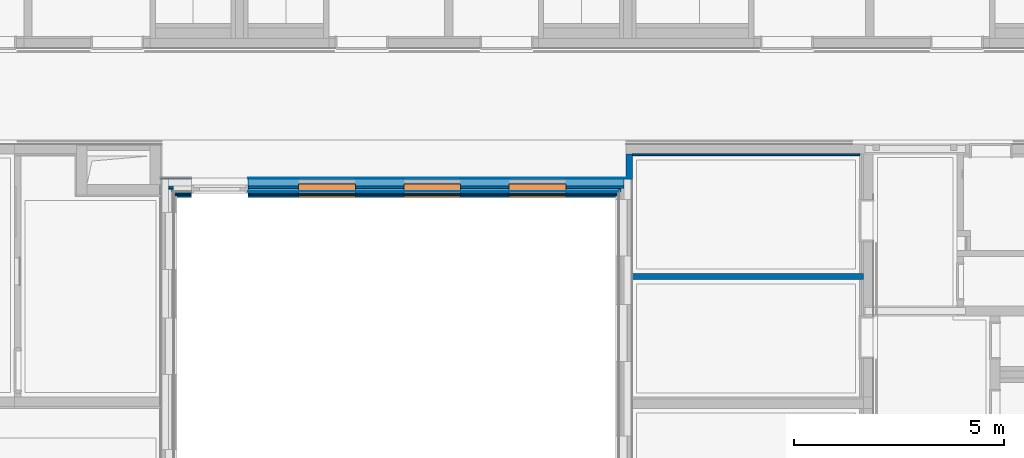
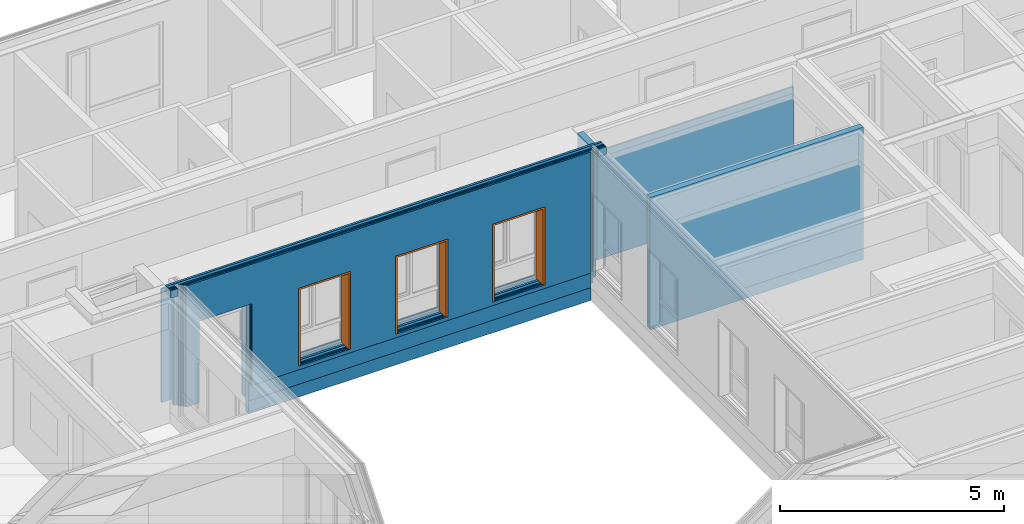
# One storey, part 52 of 207: 14 walls, 3 proxies, 28 openings.
"""IFC4 building model written with IfcOpenShell, lengths in metres."""

import ifcopenshell
import ifcopenshell.guid

model = None  # the IFC model being written
_history = None  # IfcOwnerHistory: only IFC2X3 demands one
_inside = {}  # id of a spatial element -> (the spatial element, [elements in it])
_under = {}  # id of a project, library or spatial element -> (it, [spatial elements below it])
_declared = {}  # id of a project -> (the project, [libraries it declares])
_typed = {}  # id of a type object -> (the type object, [elements of that type])
_made_of = {}  # id of a material, layer set ... -> (it, [elements and type objects made of it])


def new_model(schema):
    """Start an empty IFC model of exactly this schema.

    Asked for "IFC4X3", IfcOpenShell would pick the latest addendum, in which some entities
    have other attributes; the version numbers below select the first issue.
    IFC2X3 requires an IfcOwnerHistory on every rooted entity: one is made here for all.
    """
    global model, _history
    if schema == "IFC4X3":
        model = ifcopenshell.file(schema_version=(4, 3, 0, 0))
    else:
        model = ifcopenshell.file(schema=schema)
    _inside.clear()
    _under.clear()
    _declared.clear()
    _typed.clear()
    _made_of.clear()
    _history = None
    if model.schema == "IFC2X3":
        org = make("IfcOrganization", Name="unknown")
        user = make(
            "IfcPersonAndOrganization",
            ThePerson=make("IfcPerson", FamilyName="unknown"),
            TheOrganization=org,
        )
        app = make(
            "IfcApplication",
            ApplicationDeveloper=org,
            Version="unknown",
            ApplicationFullName="unknown",
            ApplicationIdentifier="unknown",
        )
        _history = make(
            "IfcOwnerHistory",
            OwningUser=user,
            OwningApplication=app,
            ChangeAction="ADDED",
            CreationDate=0,
        )
    return model


def make(cls, **values):
    """One entity of the class cls with the attributes given. An attribute that is None is left unset."""
    return model.create_entity(
        cls, **{name: value for name, value in values.items() if value is not None}
    )


def entity(cls, *values):
    """Any entity or typed value of the class cls, its attributes in the order of the schema. None: left unset."""
    e = model.create_entity(cls)
    for i, value in enumerate(values):
        if value is not None:
            e[i] = value
    return e


def rooted(cls, **values):
    """An entity with a GlobalId (a new one), such as an element, a storey or a relation."""
    return make(cls, GlobalId=ifcopenshell.guid.new(), OwnerHistory=_history, **values)


def si_unit(unit_type, name, prefix=None):
    """IfcSIUnit, for example si_unit("LENGTHUNIT", "METRE", prefix="MILLI")."""
    return make("IfcSIUnit", UnitType=unit_type, Prefix=prefix, Name=name)


def converted_unit(unit_type, name, factor, base, dimensions=None, offset=None):
    """IfcConversionBasedUnit, such as the inch: factor (a typed value) times the base unit."""
    return make(
        "IfcConversionBasedUnit"
        if offset is None
        else "IfcConversionBasedUnitWithOffset",
        ConversionOffset=offset,
        Dimensions=None
        if dimensions is None
        else entity("IfcDimensionalExponents", *dimensions),
        UnitType=unit_type,
        Name=name,
        ConversionFactor=make(
            "IfcMeasureWithUnit", ValueComponent=factor, UnitComponent=base
        ),
    )


def derived_unit(unit_type, elements):
    """IfcDerivedUnit: a product of units, each with its exponent."""
    return make(
        "IfcDerivedUnit",
        Elements=[
            make("IfcDerivedUnitElement", Unit=unit, Exponent=power)
            for unit, power in elements
        ],
        UnitType=unit_type,
    )


def assignment(units):
    """IfcUnitAssignment: the units of a project."""
    return None if units is None else make("IfcUnitAssignment", Units=units)


def point(xyz):
    """IfcCartesianPoint."""
    return None if xyz is None else make("IfcCartesianPoint", Coordinates=xyz)


def direction(xyz):
    """IfcDirection."""
    return None if xyz is None else make("IfcDirection", DirectionRatios=xyz)


def frame(location, z_axis=None, x_axis=None):
    """IfcAxis2Placement3D, a coordinate frame: its origin and axes. An axis left out is left unset."""
    return make(
        "IfcAxis2Placement3D",
        Location=point(location),
        Axis=direction(z_axis),
        RefDirection=direction(x_axis),
    )


def frame_2d(location, x_axis=None):
    """IfcAxis2Placement2D, a coordinate frame in the plane: its origin and x axis."""
    return make(
        "IfcAxis2Placement2D", Location=point(location), RefDirection=direction(x_axis)
    )


def origin():
    """The frame at (0, 0, 0) with its axes left unset."""
    return frame((0.0, 0.0, 0.0))


def origin_with_axes():
    """The frame at (0, 0, 0) with the z axis (0, 0, 1) and the x axis (1, 0, 0) written out."""
    return frame((0.0, 0.0, 0.0), z_axis=(0.0, 0.0, 1.0), x_axis=(1.0, 0.0, 0.0))


def place(relative_to, where):
    """IfcLocalPlacement: puts the frame where relative to a parent placement (None: the world)."""
    return make(
        "IfcLocalPlacement", PlacementRelTo=relative_to, RelativePlacement=where
    )


def context(
    kind, dimensions, precision=None, world=None, true_north=None, identifier=None
):
    """IfcGeometricRepresentationContext, for example the 3D "Model" context."""
    return make(
        "IfcGeometricRepresentationContext",
        ContextIdentifier=identifier,
        ContextType=kind,
        CoordinateSpaceDimension=dimensions,
        Precision=precision,
        WorldCoordinateSystem=world,
        TrueNorth=true_north,
    )


def subcontext(parent, identifier, kind, view, scale=None):
    """IfcGeometricRepresentationSubContext, for example "Body" below "Model"."""
    return make(
        "IfcGeometricRepresentationSubContext",
        ContextIdentifier=identifier,
        ContextType=kind,
        ParentContext=parent,
        TargetScale=scale,
        TargetView=view,
    )


def project(units=None, contexts=None):
    """IfcProject with its units and contexts."""
    return rooted(
        "IfcProject",
        Name="project",
        RepresentationContexts=contexts,
        UnitsInContext=assignment(units),
    )


def spatial(cls, under=None, at=None, **own):
    """A site, building, storey or space (cls), placed at a placement, below another one or the project."""
    s = rooted(cls, ObjectPlacement=at, **own)
    if under is not None:
        _under.setdefault(under.id(), (under, []))[1].append(s)
    return s


def polyline(points):
    """IfcPolyline through the points."""
    return make("IfcPolyline", Points=[point(p) for p in points])


def profile(cls, at=None, kind="AREA", **sizes):
    """A parametric profile (cls). Its sizes go by their IFC names, for example OverallWidth=200.0."""
    return make(cls, ProfileType=kind, Position=at, **sizes)


def rectangle(**sizes):
    """IfcRectangleProfileDef."""
    return profile("IfcRectangleProfileDef", **sizes)


def outline(outer, holes=None, kind="AREA"):
    """IfcArbitraryClosedProfileDef: a profile drawn as a closed curve; with holes, ...WithVoids."""
    if holes is None:
        return make("IfcArbitraryClosedProfileDef", ProfileType=kind, OuterCurve=outer)
    return make(
        "IfcArbitraryProfileDefWithVoids",
        ProfileType=kind,
        OuterCurve=outer,
        InnerCurves=holes,
    )


def extrude(swept, where, along, depth):
    """IfcExtrudedAreaSolid: the profile swept, set in the frame where, extruded along a direction by depth."""
    return make(
        "IfcExtrudedAreaSolid",
        SweptArea=swept,
        Position=where,
        ExtrudedDirection=direction(along),
        Depth=depth,
    )


def clip(a, b, op="DIFFERENCE"):
    """IfcBooleanClippingResult: the solid a cut by the half space b."""
    return make(
        "IfcBooleanClippingResult", Operator=op, FirstOperand=a, SecondOperand=b
    )


def bounded_halfspace(plane, agree, where, boundary):
    """IfcPolygonalBoundedHalfSpace: a half space limited to a polygon's prism."""
    return make(
        "IfcPolygonalBoundedHalfSpace",
        BaseSurface=make("IfcPlane", Position=plane),
        AgreementFlag=agree,
        Position=where,
        PolygonalBoundary=boundary,
    )


def faces_of(points, faces, orient=None, outer=None):
    """IfcFace entities. A face is a list of loops; a loop is a list of indices into points, from 0.

    orient and outer hold one flag for each loop. By default every Orientation is true, the
    first loop of a face is its IfcFaceOuterBound and the others are IfcFaceBound.
    """
    made = []
    for i, loops in enumerate(faces):
        bounds = []
        for j, loop in enumerate(loops):
            is_outer = j == 0 if outer is None else outer[i][j]
            bounds.append(
                make(
                    "IfcFaceOuterBound" if is_outer else "IfcFaceBound",
                    Bound=make("IfcPolyLoop", Polygon=[points[k] for k in loop]),
                    Orientation=True if orient is None else orient[i][j],
                )
            )
        made.append(make("IfcFace", Bounds=bounds))
    return made


def faceted_brep(points, faces, orient=None, outer=None, voids=None):
    """IfcFacetedBrep: a solid bounded by flat faces; with voids (closed shells), ...WithVoids."""
    shared = [point(p) for p in points]
    hull = make("IfcClosedShell", CfsFaces=faces_of(shared, faces, orient, outer))
    if voids is None:
        return make("IfcFacetedBrep", Outer=hull)
    return make(
        "IfcFacetedBrepWithVoids",
        Outer=hull,
        Voids=[
            make(cls, CfsFaces=faces_of(shared, fs, o, b)) for cls, fs, o, b in voids
        ],
    )


def shape(context_of_items, identifier, shape_type, items):
    """IfcShapeRepresentation: the items that make up one representation, for example the "Body"."""
    return make(
        "IfcShapeRepresentation",
        ContextOfItems=context_of_items,
        RepresentationIdentifier=identifier,
        RepresentationType=shape_type,
        Items=items,
    )


def material(Name=None, Category=None):
    """IfcMaterial."""
    return make("IfcMaterial", Name=Name, Category=Category)


def made_of(thing, what):
    """Note that an element or type object is made of a material, layer set ...; save() writes the relation."""
    if what is not None:
        _made_of.setdefault(what.id(), (what, []))[1].append(thing)
    return thing


def element(
    cls,
    number,
    at=None,
    inside=None,
    cuts=None,
    type_object=None,
    material=None,
    context=None,
    identifier="Body",
    shape_type=None,
    held_by="IfcProductDefinitionShape",
    body=None,
    shapes=None,
    **own,
):
    """One element of the class cls, such as IfcWall. Its Tag is "e" and its number.

    at: its placement. inside: the storey or other place that contains it. cuts: it is an
    opening in that element (IfcRelVoidsElement). A single representation is given by context,
    identifier, shape_type and body (its items); several are given by shapes. held_by: the class
    of the entity that holds the representations. save() writes the other relations.
    """
    e = rooted(cls, Tag="e%d" % number, ObjectPlacement=at, **own)
    if body is not None:
        shapes = [shape(context, identifier, shape_type, body)]
    if shapes is not None:
        e.Representation = make(held_by, Representations=shapes)
    if inside is not None:
        _inside.setdefault(inside.id(), (inside, []))[1].append(e)
    if cuts is not None:
        rooted(
            "IfcRelVoidsElement", RelatingBuildingElement=cuts, RelatedOpeningElement=e
        )
    if type_object is not None:
        _typed.setdefault(type_object.id(), (type_object, []))[1].append(e)
    return made_of(e, material)


def fill(opening, filler):
    """IfcRelFillsElement: the door or window that sits in an opening."""
    return rooted(
        "IfcRelFillsElement",
        RelatingOpeningElement=opening,
        RelatedBuildingElement=filler,
    )


def aggregate(whole, parts):
    """IfcRelAggregates: a whole, such as a stair, and the parts it consists of."""
    return rooted("IfcRelAggregates", RelatingObject=whole, RelatedObjects=parts)


def save(model, path):
    """Write the relations noted so far, then the file.

    IfcRelAggregates (storeys below a building ...), IfcRelContainedInSpatialStructure (elements
    in a storey), IfcRelDefinesByType, IfcRelAssociatesMaterial and IfcRelDeclares: one each for
    every whole, place, type object, material and project.
    """
    for whole, parts in _under.values():
        aggregate(whole, parts)
    for where, things in _inside.values():
        rooted(
            "IfcRelContainedInSpatialStructure",
            RelatedElements=things,
            RelatingStructure=where,
        )
    for kind, things in _typed.values():
        rooted("IfcRelDefinesByType", RelatedObjects=things, RelatingType=kind)
    for what, things in _made_of.values():
        rooted("IfcRelAssociatesMaterial", RelatedObjects=things, RelatingMaterial=what)
    for by, libraries in _declared.values():
        rooted("IfcRelDeclares", RelatingContext=by, RelatedDefinitions=libraries)
    model.write(path)


model = new_model("IFC4")

# Units and contexts
model_context = context("Model", 3, precision=1e-05, world=origin())
body_context = subcontext(model_context, "Body", "Model", "MODEL_VIEW")
ifc_project = project(units=[si_unit("LENGTHUNIT", "METRE"), si_unit("AREAUNIT", "SQUARE_METRE"), si_unit("VOLUMEUNIT", "CUBIC_METRE"), si_unit("MASSUNIT", "GRAM", prefix="KILO"), converted_unit("PLANEANGLEUNIT", "DEGREE", entity("IfcPlaneAngleMeasure", 0.0174532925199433), si_unit("PLANEANGLEUNIT", "RADIAN"), dimensions=[0, 0, 0, 0, 0, 0, 0]), derived_unit("THERMALTRANSMITTANCEUNIT", [(si_unit("POWERUNIT", "WATT"), 1), (si_unit("THERMODYNAMICTEMPERATUREUNIT", "KELVIN"), -1), (si_unit("LENGTHUNIT", "METRE"), -2)]), derived_unit("VOLUMETRICFLOWRATEUNIT", [(si_unit("LENGTHUNIT", "METRE"), 3), (converted_unit("TIMEUNIT", "hour", entity("IfcTimeMeasure", 3600.0), si_unit("TIMEUNIT", "SECOND"), dimensions=[0, 0, 1, 0, 0, 0, 0]), -1), (si_unit("LENGTHUNIT", "METRE"), -1)])], contexts=[model_context])

# Site, building, storey
site_placement = place(None, origin())
site = spatial("IfcSite", under=ifc_project, at=site_placement, Name="Psychiatrie Neubau Wunstorf", CompositionType="ELEMENT")
building_placement = place(site_placement, origin())
building = spatial("IfcBuilding", under=site, at=building_placement, Name="Neubau H2 Stationsgebäude", CompositionType="ELEMENT")
storey_placement = place(building_placement, frame((0.0, 0.0, -0.2)))
storey = spatial("IfcBuildingStorey", under=building, at=storey_placement, Name="H2 Ebene 0", CompositionType="ELEMENT", Elevation=-0.2)

# Wall, openings
ifc_material_1 = material(Name="WA-LB")
wall_1_placement = place(storey_placement, frame((90.361, 22.036, 0.5), z_axis=(0.0, 0.0, 1.0), x_axis=(-1.0, 0.0, 0.0)))
wall_1 = element("IfcWall", 1, at=wall_1_placement, inside=storey, material=ifc_material_1, context=body_context, shape_type="SweptSolid", body=[
    extrude(rectangle(XDim=11.211, YDim=0.036, at=frame_2d((5.6055, 0.018), x_axis=(1.0, 0.0))), origin_with_axes(), (0.0, 0.0, 1.0), 3.1),
])
opening_1_placement = place(wall_1_placement, frame((7.9313, 0.036, 0.1), z_axis=(0.0, -1.0, 0.0), x_axis=(0.0, 0.0, 1.0)))
element("IfcOpeningElement", 2, at=opening_1_placement, cuts=wall_1, Name="Fensteröffnung", ObjectType="Opening", context=body_context, shape_type="SweptSolid", body=[
    extrude(outline(polyline([(2.12, 1.35), (2.12, 0.0), (0.0, 0.0), (0.0, 1.35), (2.12, 1.35)])), origin_with_axes(), (0.0, 0.0, 1.0), 0.036),
])
opening_2_placement = place(wall_1_placement, frame((5.4313, 0.036, 0.1), z_axis=(0.0, -1.0, 0.0), x_axis=(0.0, 0.0, 1.0)))
element("IfcOpeningElement", 3, at=opening_2_placement, cuts=wall_1, Name="Fensteröffnung", ObjectType="Opening", context=body_context, shape_type="SweptSolid", body=[
    extrude(outline(polyline([(2.12, 1.35), (2.12, 0.0), (0.0, 0.0), (0.0, 1.35), (2.12, 1.35)])), origin_with_axes(), (0.0, 0.0, 1.0), 0.036),
])
opening_3_placement = place(wall_1_placement, frame((2.9313, 0.036, 0.1), z_axis=(0.0, -1.0, 0.0), x_axis=(0.0, 0.0, 1.0)))
element("IfcOpeningElement", 4, at=opening_3_placement, cuts=wall_1, Name="Fensteröffnung", ObjectType="Opening", context=body_context, shape_type="SweptSolid", body=[
    extrude(outline(polyline([(2.12, 1.35), (2.12, 0.0), (0.0, 0.0), (0.0, 1.35), (2.12, 1.35)])), origin_with_axes(), (0.0, 0.0, 1.0), 0.036),
])
opening_4_placement = place(wall_1_placement, frame((10.48, 0.036, -0.5), z_axis=(0.0, -1.0, 0.0), x_axis=(0.0, 0.0, 1.0)))
element("IfcOpeningElement", 5, at=opening_4_placement, cuts=wall_1, Name="Türöffnung", ObjectType="Opening", context=body_context, shape_type="SweptSolid", body=[
    extrude(outline(polyline([(2.72, 1.35), (2.72, 0.0), (0.0, 0.0), (0.0, 1.35), (2.72, 1.35)])), origin_with_axes(), (0.0, 0.0, 1.0), 0.036),
])

ifc_material_2 = material(Name="WA-DL")
wall_2_placement = place(storey_placement, frame((90.361, 21.84, 0.5), z_axis=(0.0, 0.0, 1.0), x_axis=(-1.0, 0.0, 0.0)))
wall_2 = element("IfcWall", 6, at=wall_2_placement, inside=storey, material=ifc_material_2, context=body_context, shape_type="Clipping", body=[
    clip(clip(extrude(rectangle(XDim=11.211, YDim=0.06, at=frame_2d((5.6055, 0.03), x_axis=(1.0, 0.0))), origin_with_axes(), (0.0, 0.0, 1.0), 3.3), bounded_halfspace(frame((11.1185, 0.03, 3.1), z_axis=(0.0, 0.0, 1.0), x_axis=(0.0, 1.0, 0.0)), True, origin_with_axes(), polyline([(11.211, 0.0), (11.211, 0.06), (11.026, 0.06), (11.026, 0.0), (11.211, 0.0)]))), bounded_halfspace(frame((0.098, 0.03, 3.1), z_axis=(1.16006977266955e-15, -3.7895612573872e-15, 1.0), x_axis=(0.0, -1.0, -7.5791225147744e-15)), True, origin_with_axes(), polyline([(0.0, 0.06), (0.0, 0.0), (0.196, 0.0), (0.196, 0.06), (0.0, 0.06)]))),
])
opening_5_placement = place(wall_2_placement, frame((7.9313, 0.06, 0.1), z_axis=(0.0, -1.0, 0.0), x_axis=(0.0, 0.0, 1.0)))
element("IfcOpeningElement", 7, at=opening_5_placement, cuts=wall_2, Name="Fensteröffnung", ObjectType="Opening", context=body_context, shape_type="SweptSolid", body=[
    extrude(outline(polyline([(2.12, 1.35), (2.12, 0.0), (0.0, 0.0), (0.0, 1.35), (2.12, 1.35)])), origin_with_axes(), (0.0, 0.0, 1.0), 0.06),
])
opening_6_placement = place(wall_2_placement, frame((5.4313, 0.06, 0.1), z_axis=(0.0, -1.0, 0.0), x_axis=(0.0, 0.0, 1.0)))
element("IfcOpeningElement", 8, at=opening_6_placement, cuts=wall_2, Name="Fensteröffnung", ObjectType="Opening", context=body_context, shape_type="SweptSolid", body=[
    extrude(outline(polyline([(2.12, 1.35), (2.12, 0.0), (0.0, 0.0), (0.0, 1.35), (2.12, 1.35)])), origin_with_axes(), (0.0, 0.0, 1.0), 0.06),
])
opening_7_placement = place(wall_2_placement, frame((2.9313, 0.06, 0.1), z_axis=(0.0, -1.0, 0.0), x_axis=(0.0, 0.0, 1.0)))
element("IfcOpeningElement", 9, at=opening_7_placement, cuts=wall_2, Name="Fensteröffnung", ObjectType="Opening", context=body_context, shape_type="SweptSolid", body=[
    extrude(outline(polyline([(2.12, 1.35), (2.12, 0.0), (0.0, 0.0), (0.0, 1.35), (2.12, 1.35)])), origin_with_axes(), (0.0, 0.0, 1.0), 0.06),
])
opening_8_placement = place(wall_2_placement, frame((10.48, 0.06, -0.5), z_axis=(0.0, -1.0, 0.0), x_axis=(0.0, 0.0, 1.0)))
element("IfcOpeningElement", 10, at=opening_8_placement, cuts=wall_2, Name="Türöffnung", ObjectType="Opening", context=body_context, shape_type="SweptSolid", body=[
    extrude(outline(polyline([(2.72, 1.35), (2.72, 0.0), (0.0, 0.0), (0.0, 1.35), (2.72, 1.35)])), origin_with_axes(), (0.0, 0.0, 1.0), 0.06),
])

ifc_material_3 = material(Name="WA-DL")
wall_3_placement = place(storey_placement, frame((90.361, 21.78, 0.5), z_axis=(0.0, 0.0, 1.0), x_axis=(-1.0, 0.0, 0.0)))
wall_3 = element("IfcWall", 11, at=wall_3_placement, inside=storey, material=ifc_material_3, context=body_context, shape_type="Clipping", body=[
    clip(clip(extrude(outline(polyline([(-10.935, -0.08), (0.0, -0.08), (0.0, 0.0), (-0.185, 0.0), (-0.185, -0.06), (-0.265, -0.06), (-0.265, 0.0), (-10.935, 0.0), (-10.935, -0.08)])), frame((11.211, 0.08, 0.0), z_axis=(0.0, 0.0, 1.0), x_axis=(1.0, 0.0, 0.0)), (0.0, 0.0, 1.0), 3.3), bounded_halfspace(frame((0.098, 0.04, 3.1), z_axis=(1.16006977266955e-15, 2.8421709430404e-15, 1.0), x_axis=(0.0, -1.0, 5.6843418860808e-15)), True, origin_with_axes(), polyline([(0.0, 0.08), (0.0, 0.0), (0.196, 0.0), (0.196, 0.08), (0.0, 0.08)]))), bounded_halfspace(frame((11.1, 0.036, 3.1), z_axis=(0.0, 0.0, 1.0), x_axis=(0.0, 1.0, 0.0)), True, origin_with_axes(), polyline([(11.211, 0.0), (11.211, 0.08), (11.026, 0.08), (11.026, 0.02), (11.026, 0.0), (11.211, 0.0)]))),
    clip(clip(extrude(rectangle(XDim=0.196, YDim=0.08, at=frame_2d((0.098, 0.04), x_axis=(1.0, 0.0))), origin_with_axes(), (0.0, 0.0, 1.0), 3.3), bounded_halfspace(frame((0.098, 0.04, 3.1), z_axis=(1.16006977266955e-15, 2.8421709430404e-15, 1.0), x_axis=(0.0, -1.0, 5.6843418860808e-15)), True, origin_with_axes(), polyline([(0.0, 0.08), (0.0, 0.0), (0.196, 0.0), (0.196, 0.08), (0.0, 0.08)]))), bounded_halfspace(frame((11.1, 0.036, 3.1), z_axis=(0.0, 0.0, 1.0), x_axis=(0.0, 1.0, 0.0)), True, origin_with_axes(), polyline([(11.211, 0.0), (11.211, 0.08), (11.026, 0.08), (11.026, 0.02), (11.026, 0.0), (11.211, 0.0)]))),
])
opening_9_placement = place(wall_3_placement, frame((7.9313, 0.08, 0.1), z_axis=(0.0, -1.0, 0.0), x_axis=(0.0, 0.0, 1.0)))
element("IfcOpeningElement", 12, at=opening_9_placement, cuts=wall_3, Name="Fensteröffnung", ObjectType="Opening", context=body_context, shape_type="SweptSolid", body=[
    extrude(outline(polyline([(2.12, 1.35), (2.12, 0.0), (0.0, 0.0), (0.0, 1.35), (2.12, 1.35)])), origin_with_axes(), (0.0, 0.0, 1.0), 0.08),
])
opening_10_placement = place(wall_3_placement, frame((5.4313, 0.08, 0.1), z_axis=(0.0, -1.0, 0.0), x_axis=(0.0, 0.0, 1.0)))
element("IfcOpeningElement", 13, at=opening_10_placement, cuts=wall_3, Name="Fensteröffnung", ObjectType="Opening", context=body_context, shape_type="SweptSolid", body=[
    extrude(outline(polyline([(2.12, 1.35), (2.12, 0.0), (0.0, 0.0), (0.0, 1.35), (2.12, 1.35)])), origin_with_axes(), (0.0, 0.0, 1.0), 0.08),
])
opening_11_placement = place(wall_3_placement, frame((2.9313, 0.08, 0.1), z_axis=(0.0, -1.0, 0.0), x_axis=(0.0, 0.0, 1.0)))
element("IfcOpeningElement", 14, at=opening_11_placement, cuts=wall_3, Name="Fensteröffnung", ObjectType="Opening", context=body_context, shape_type="SweptSolid", body=[
    extrude(outline(polyline([(2.12, 1.35), (2.12, 0.0), (0.0, 0.0), (0.0, 1.35), (2.12, 1.35)])), origin_with_axes(), (0.0, 0.0, 1.0), 0.08),
])
opening_12_placement = place(wall_3_placement, frame((10.48, 0.08, -0.5), z_axis=(0.0, -1.0, 0.0), x_axis=(0.0, 0.0, 1.0)))
element("IfcOpeningElement", 15, at=opening_12_placement, cuts=wall_3, Name="Türöffnung", ObjectType="Opening", context=body_context, shape_type="SweptSolid", body=[
    extrude(outline(polyline([(2.72, 1.35), (2.72, 0.0), (0.0, 0.0), (0.0, 1.35), (2.72, 1.35)])), origin_with_axes(), (0.0, 0.0, 1.0), 0.08),
])

ifc_material_4 = material(Name="WA-LB")
wall_4_placement = place(storey_placement, frame((90.361, 21.7, 0.5), z_axis=(0.0, 0.0, 1.0), x_axis=(-1.0, 0.0, 0.0)))
wall_4 = element("IfcWall", 16, at=wall_4_placement, inside=storey, material=ifc_material_4, context=body_context, shape_type="Clipping", body=[
    clip(clip(extrude(rectangle(XDim=10.598, YDim=0.036, at=frame_2d((5.299, 0.018), x_axis=(1.0, 0.0))), frame((0.312, 0.0, 0.0), z_axis=(0.0, 0.0, 1.0), x_axis=(1.0, 0.0, 0.0)), (0.0, 0.0, 1.0), 3.3), bounded_halfspace(frame((0.098, 0.018, 3.1), z_axis=(-1.16006977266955e-15, 6.31593542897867e-15, 1.0), x_axis=(1.0, 0.0, 2.3201395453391e-15)), True, origin_with_axes(), polyline([(0.0, 0.0), (0.196, 0.0), (0.196, 0.036), (0.0, 0.036), (0.0, 0.0)]))), bounded_halfspace(frame((11.1185, 0.018, 3.1), z_axis=(1.22904689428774e-15, 6.31593542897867e-15, 1.0), x_axis=(1.0, 0.0, -2.45809378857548e-15)), True, origin_with_axes(), polyline([(11.026, 0.0), (11.211, 0.0), (11.211, 0.036), (11.026, 0.036), (11.026, 0.0)]))),
    clip(clip(extrude(rectangle(XDim=0.036, YDim=0.196, at=frame_2d((-0.098, 0.018), x_axis=(0.0, 1.0))), frame((0.196, 0.0, 0.0), z_axis=(0.0, 0.0, 1.0), x_axis=(1.0, 0.0, 0.0)), (0.0, 0.0, 1.0), 3.3), bounded_halfspace(frame((0.098, 0.018, 3.1), z_axis=(-1.16006977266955e-15, 6.31593542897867e-15, 1.0), x_axis=(1.0, 0.0, 2.3201395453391e-15)), True, origin_with_axes(), polyline([(0.0, 0.0), (0.196, 0.0), (0.196, 0.036), (0.0, 0.036), (0.0, 0.0)]))), bounded_halfspace(frame((11.1185, 0.018, 3.1), z_axis=(1.22904689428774e-15, 6.31593542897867e-15, 1.0), x_axis=(1.0, 0.0, -2.45809378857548e-15)), True, origin_with_axes(), polyline([(11.026, 0.0), (11.211, 0.0), (11.211, 0.036), (11.026, 0.036), (11.026, 0.0)]))),
    clip(clip(extrude(rectangle(XDim=0.185, YDim=0.036, at=frame_2d((0.0925, 0.018), x_axis=(1.0, 0.0))), frame((11.026, 0.0, 0.0), z_axis=(0.0, 0.0, 1.0), x_axis=(1.0, 0.0, 0.0)), (0.0, 0.0, 1.0), 3.3), bounded_halfspace(frame((0.098, 0.018, 3.1), z_axis=(-1.16006977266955e-15, 6.31593542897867e-15, 1.0), x_axis=(1.0, 0.0, 2.3201395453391e-15)), True, origin_with_axes(), polyline([(0.0, 0.0), (0.196, 0.0), (0.196, 0.036), (0.0, 0.036), (0.0, 0.0)]))), bounded_halfspace(frame((11.1185, 0.018, 3.1), z_axis=(1.22904689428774e-15, 6.31593542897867e-15, 1.0), x_axis=(1.0, 0.0, -2.45809378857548e-15)), True, origin_with_axes(), polyline([(11.026, 0.0), (11.211, 0.0), (11.211, 0.036), (11.026, 0.036), (11.026, 0.0)]))),
])
opening_13_placement = place(wall_4_placement, frame((7.9313, 0.036, 0.1), z_axis=(0.0, -1.0, 0.0), x_axis=(0.0, 0.0, 1.0)))
element("IfcOpeningElement", 17, at=opening_13_placement, cuts=wall_4, Name="Fensteröffnung", ObjectType="Opening", context=body_context, shape_type="SweptSolid", body=[
    extrude(outline(polyline([(2.12, 1.35), (2.12, 0.0), (0.0, 0.0), (0.0, 1.35), (2.12, 1.35)])), origin_with_axes(), (0.0, 0.0, 1.0), 0.036),
])
opening_14_placement = place(wall_4_placement, frame((5.4313, 0.036, 0.1), z_axis=(0.0, -1.0, 0.0), x_axis=(0.0, 0.0, 1.0)))
element("IfcOpeningElement", 18, at=opening_14_placement, cuts=wall_4, Name="Fensteröffnung", ObjectType="Opening", context=body_context, shape_type="SweptSolid", body=[
    extrude(outline(polyline([(2.12, 1.35), (2.12, 0.0), (0.0, 0.0), (0.0, 1.35), (2.12, 1.35)])), origin_with_axes(), (0.0, 0.0, 1.0), 0.036),
])
opening_15_placement = place(wall_4_placement, frame((2.9313, 0.036, 0.1), z_axis=(0.0, -1.0, 0.0), x_axis=(0.0, 0.0, 1.0)))
element("IfcOpeningElement", 19, at=opening_15_placement, cuts=wall_4, Name="Fensteröffnung", ObjectType="Opening", context=body_context, shape_type="SweptSolid", body=[
    extrude(outline(polyline([(2.12, 1.35), (2.12, 0.0), (0.0, 0.0), (0.0, 1.35), (2.12, 1.35)])), origin_with_axes(), (0.0, 0.0, 1.0), 0.036),
])
opening_16_placement = place(wall_4_placement, frame((10.48, 0.036, -0.5), z_axis=(0.0, -1.0, 0.0), x_axis=(0.0, 0.0, 1.0)))
element("IfcOpeningElement", 20, at=opening_16_placement, cuts=wall_4, Name="Türöffnung", ObjectType="Opening", context=body_context, shape_type="SweptSolid", body=[
    extrude(outline(polyline([(2.72, 1.35), (2.72, 0.0), (0.0, 0.0), (0.0, 1.35), (2.72, 1.35)])), origin_with_axes(), (0.0, 0.0, 1.0), 0.036),
])

ifc_material_5 = material(Name="WA-KL")
wall_5_placement = place(storey_placement, frame((90.361, 21.664, 0.5), z_axis=(0.0, 0.0, 1.0), x_axis=(-1.0, 0.0, 0.0)))
wall_5 = element("IfcWall", 21, at=wall_5_placement, inside=storey, material=ifc_material_5, context=body_context, shape_type="Clipping", body=[
    clip(clip(extrude(rectangle(XDim=10.55, YDim=0.024, at=frame_2d((5.275, 0.012), x_axis=(1.0, 0.0))), frame((0.336, 0.0, 0.0), z_axis=(0.0, 0.0, 1.0), x_axis=(1.0, 0.0, 0.0)), (0.0, 0.0, 1.0), 3.3), bounded_halfspace(frame((0.098, 0.012, 3.1), z_axis=(1.16006977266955e-15, 9.473903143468e-15, 1.0), x_axis=(1.0, 0.0, -2.3201395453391e-15)), True, origin_with_axes(), polyline([(0.0, 0.0), (0.196, 0.0), (0.196, 0.024), (0.0, 0.024), (0.0, 0.0)]))), bounded_halfspace(frame((11.1185, 0.012, 3.1), z_axis=(-1.22904689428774e-15, -9.473903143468e-15, 1.0), x_axis=(1.0, 0.0, 0.0)), True, origin_with_axes(), polyline([(11.026, 0.0), (11.211, 0.0), (11.211, 0.024), (11.026, 0.024), (11.026, 0.0)]))),
    clip(clip(extrude(rectangle(XDim=0.196, YDim=0.024, at=frame_2d((0.098, 0.012), x_axis=(1.0, 0.0))), origin_with_axes(), (0.0, 0.0, 1.0), 3.3), bounded_halfspace(frame((0.098, 0.012, 3.1), z_axis=(1.16006977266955e-15, 9.473903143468e-15, 1.0), x_axis=(1.0, 0.0, -2.3201395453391e-15)), True, origin_with_axes(), polyline([(0.0, 0.0), (0.196, 0.0), (0.196, 0.024), (0.0, 0.024), (0.0, 0.0)]))), bounded_halfspace(frame((11.1185, 0.012, 3.1), z_axis=(-1.22904689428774e-15, -9.473903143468e-15, 1.0), x_axis=(1.0, 0.0, 0.0)), True, origin_with_axes(), polyline([(11.026, 0.0), (11.211, 0.0), (11.211, 0.024), (11.026, 0.024), (11.026, 0.0)]))),
    clip(clip(extrude(rectangle(XDim=0.185, YDim=0.024, at=frame_2d((-0.0925, -0.012), x_axis=(-1.0, 0.0))), frame((11.211, 0.024, 0.0), z_axis=(0.0, 0.0, 1.0), x_axis=(1.0, 0.0, 0.0)), (0.0, 0.0, 1.0), 3.3), bounded_halfspace(frame((0.098, 0.012, 3.1), z_axis=(1.16006977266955e-15, 9.473903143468e-15, 1.0), x_axis=(1.0, 0.0, -2.3201395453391e-15)), True, origin_with_axes(), polyline([(0.0, 0.0), (0.196, 0.0), (0.196, 0.024), (0.0, 0.024), (0.0, 0.0)]))), bounded_halfspace(frame((11.1185, 0.012, 3.1), z_axis=(-1.22904689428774e-15, -9.473903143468e-15, 1.0), x_axis=(1.0, 0.0, 0.0)), True, origin_with_axes(), polyline([(11.026, 0.0), (11.211, 0.0), (11.211, 0.024), (11.026, 0.024), (11.026, 0.0)]))),
])
opening_17_placement = place(wall_5_placement, frame((7.9313, 0.024, 0.1), z_axis=(0.0, -1.0, 0.0), x_axis=(0.0, 0.0, 1.0)))
element("IfcOpeningElement", 22, at=opening_17_placement, cuts=wall_5, Name="Fensteröffnung", ObjectType="Opening", context=body_context, shape_type="SweptSolid", body=[
    extrude(outline(polyline([(2.12, 1.35), (2.12, 0.0), (0.0, 0.0), (0.0, 1.35), (2.12, 1.35)])), origin_with_axes(), (0.0, 0.0, 1.0), 0.024),
])
opening_18_placement = place(wall_5_placement, frame((5.4313, 0.024, 0.1), z_axis=(0.0, -1.0, 0.0), x_axis=(0.0, 0.0, 1.0)))
element("IfcOpeningElement", 23, at=opening_18_placement, cuts=wall_5, Name="Fensteröffnung", ObjectType="Opening", context=body_context, shape_type="SweptSolid", body=[
    extrude(outline(polyline([(2.12, 1.35), (2.12, 0.0), (0.0, 0.0), (0.0, 1.35), (2.12, 1.35)])), origin_with_axes(), (0.0, 0.0, 1.0), 0.024),
])
opening_19_placement = place(wall_5_placement, frame((2.9313, 0.024, 0.1), z_axis=(0.0, -1.0, 0.0), x_axis=(0.0, 0.0, 1.0)))
element("IfcOpeningElement", 24, at=opening_19_placement, cuts=wall_5, Name="Fensteröffnung", ObjectType="Opening", context=body_context, shape_type="SweptSolid", body=[
    extrude(outline(polyline([(2.12, 1.35), (2.12, 0.0), (0.0, 0.0), (0.0, 1.35), (2.12, 1.35)])), origin_with_axes(), (0.0, 0.0, 1.0), 0.024),
])
opening_20_placement = place(wall_5_placement, frame((10.48, 0.024, -0.5), z_axis=(0.0, -1.0, 0.0), x_axis=(0.0, 0.0, 1.0)))
element("IfcOpeningElement", 25, at=opening_20_placement, cuts=wall_5, Name="Türöffnung", ObjectType="Opening", context=body_context, shape_type="SweptSolid", body=[
    extrude(outline(polyline([(2.72, 1.35), (2.72, 0.0), (0.0, 0.0), (0.0, 1.35), (2.72, 1.35)])), origin_with_axes(), (0.0, 0.0, 1.0), 0.024),
])

ifc_material_6 = material(Name="WA-TL")
wall_6_placement = place(storey_placement, frame((90.361, 21.64, 0.5), z_axis=(0.0, 0.0, 1.0), x_axis=(-1.0, 0.0, 0.0)))
wall_6 = element("IfcWall", 26, at=wall_6_placement, inside=storey, material=ifc_material_6, context=body_context, shape_type="Clipping", body=[
    clip(clip(extrude(rectangle(XDim=10.502, YDim=0.024, at=frame_2d((5.251, 0.012), x_axis=(1.0, 0.0))), frame((0.36, 0.0, 0.0), z_axis=(0.0, 0.0, 1.0), x_axis=(1.0, 0.0, 0.0)), (0.0, 0.0, 1.0), 3.3), bounded_halfspace(frame((0.098, 0.012, 3.1), z_axis=(1.16006977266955e-15, -9.473903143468e-15, 1.0), x_axis=(1.0, 0.0, 0.0)), True, origin_with_axes(), polyline([(0.0, 0.0), (0.196, 0.0), (0.196, 0.024), (0.0, 0.024), (0.0, 0.0)]))), bounded_halfspace(frame((11.1185, 0.012, 3.1), z_axis=(1.22904689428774e-15, 9.473903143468e-15, 1.0), x_axis=(1.0, 0.0, -2.45809378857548e-15)), True, origin_with_axes(), polyline([(11.026, 0.0), (11.211, 0.0), (11.211, 0.024), (11.026, 0.024), (11.026, 0.0)]))),
    clip(clip(extrude(rectangle(XDim=0.024, YDim=0.196, at=frame_2d((0.098, -0.012), x_axis=(0.0, -1.0))), frame((0.0, 0.024, 0.0), z_axis=(0.0, 0.0, 1.0), x_axis=(1.0, 0.0, 0.0)), (0.0, 0.0, 1.0), 3.3), bounded_halfspace(frame((0.098, 0.012, 3.1), z_axis=(1.16006977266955e-15, -9.473903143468e-15, 1.0), x_axis=(1.0, 0.0, 0.0)), True, origin_with_axes(), polyline([(0.0, 0.0), (0.196, 0.0), (0.196, 0.024), (0.0, 0.024), (0.0, 0.0)]))), bounded_halfspace(frame((11.1185, 0.012, 3.1), z_axis=(1.22904689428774e-15, 9.473903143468e-15, 1.0), x_axis=(1.0, 0.0, -2.45809378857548e-15)), True, origin_with_axes(), polyline([(11.026, 0.0), (11.211, 0.0), (11.211, 0.024), (11.026, 0.024), (11.026, 0.0)]))),
    clip(clip(extrude(rectangle(XDim=0.185, YDim=0.024, at=frame_2d((0.0925, 0.012), x_axis=(1.0, 0.0))), frame((11.026, 0.0, 0.0), z_axis=(0.0, 0.0, 1.0), x_axis=(1.0, 0.0, 0.0)), (0.0, 0.0, 1.0), 3.3), bounded_halfspace(frame((0.098, 0.012, 3.1), z_axis=(1.16006977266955e-15, -9.473903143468e-15, 1.0), x_axis=(1.0, 0.0, 0.0)), True, origin_with_axes(), polyline([(0.0, 0.0), (0.196, 0.0), (0.196, 0.024), (0.0, 0.024), (0.0, 0.0)]))), bounded_halfspace(frame((11.1185, 0.012, 3.1), z_axis=(1.22904689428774e-15, 9.473903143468e-15, 1.0), x_axis=(1.0, 0.0, -2.45809378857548e-15)), True, origin_with_axes(), polyline([(11.026, 0.0), (11.211, 0.0), (11.211, 0.024), (11.026, 0.024), (11.026, 0.0)]))),
])
opening_21_placement = place(wall_6_placement, frame((7.9313, 0.024, 0.1), z_axis=(0.0, -1.0, 0.0), x_axis=(0.0, 0.0, 1.0)))
element("IfcOpeningElement", 27, at=opening_21_placement, cuts=wall_6, Name="Fensteröffnung", ObjectType="Opening", context=body_context, shape_type="SweptSolid", body=[
    extrude(outline(polyline([(2.12, 1.35), (2.12, 0.0), (0.0, 0.0), (0.0, 1.35), (2.12, 1.35)])), origin_with_axes(), (0.0, 0.0, 1.0), 0.024),
])
opening_22_placement = place(wall_6_placement, frame((5.4313, 0.024, 0.1), z_axis=(0.0, -1.0, 0.0), x_axis=(0.0, 0.0, 1.0)))
element("IfcOpeningElement", 28, at=opening_22_placement, cuts=wall_6, Name="Fensteröffnung", ObjectType="Opening", context=body_context, shape_type="SweptSolid", body=[
    extrude(outline(polyline([(2.12, 1.35), (2.12, 0.0), (0.0, 0.0), (0.0, 1.35), (2.12, 1.35)])), origin_with_axes(), (0.0, 0.0, 1.0), 0.024),
])
opening_23_placement = place(wall_6_placement, frame((2.9313, 0.024, 0.1), z_axis=(0.0, -1.0, 0.0), x_axis=(0.0, 0.0, 1.0)))
element("IfcOpeningElement", 29, at=opening_23_placement, cuts=wall_6, Name="Fensteröffnung", ObjectType="Opening", context=body_context, shape_type="SweptSolid", body=[
    extrude(outline(polyline([(2.12, 1.35), (2.12, 0.0), (0.0, 0.0), (0.0, 1.35), (2.12, 1.35)])), origin_with_axes(), (0.0, 0.0, 1.0), 0.024),
])
opening_24_placement = place(wall_6_placement, frame((10.48, 0.024, -0.5), z_axis=(0.0, -1.0, 0.0), x_axis=(0.0, 0.0, 1.0)))
element("IfcOpeningElement", 30, at=opening_24_placement, cuts=wall_6, Name="Türöffnung", ObjectType="Opening", context=body_context, shape_type="SweptSolid", body=[
    extrude(outline(polyline([(2.72, 1.35), (2.72, 0.0), (0.0, 0.0), (0.0, 1.35), (2.72, 1.35)])), origin_with_axes(), (0.0, 0.0, 1.0), 0.024),
])

# Wall, openings, proxies
ifc_material_7 = material(Name="WA-HS")
wall_7_placement = place(storey_placement, frame((90.361, 21.616, 0.5), z_axis=(0.0, 0.0, 1.0), x_axis=(-1.0, 0.0, 0.0)))
wall_7 = element("IfcWall", 31, at=wall_7_placement, inside=storey, material=ifc_material_7, context=body_context, shape_type="Clipping", body=[
    clip(clip(extrude(rectangle(XDim=10.418, YDim=0.042, at=frame_2d((5.209, 0.021), x_axis=(1.0, 0.0))), frame((0.402, 0.0, 0.0), z_axis=(0.0, 0.0, 1.0), x_axis=(1.0, 0.0, 0.0)), (0.0, 0.0, 1.0), 3.3), bounded_halfspace(frame((0.098, 0.021, 3.1), z_axis=(-1.16006977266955e-15, -5.41365893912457e-15, 1.0), x_axis=(0.0, -1.0, 0.0)), True, origin_with_axes(), polyline([(0.0, 0.042), (0.0, 0.0), (0.196, 0.0), (0.196, 0.042), (0.0, 0.042)]))), bounded_halfspace(frame((11.1185, 0.021, 3.1), z_axis=(-1.22904689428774e-15, 5.41365893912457e-15, 1.0), x_axis=(1.0, 0.0, 2.45809378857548e-15)), True, origin_with_axes(), polyline([(11.026, 0.0), (11.211, 0.0), (11.211, 0.042), (11.026, 0.042), (11.026, 0.0)]))),
    clip(clip(extrude(rectangle(XDim=0.196, YDim=0.042, at=frame_2d((-0.098, -0.021), x_axis=(-1.0, 0.0))), frame((0.196, 0.042, 0.0), z_axis=(0.0, 0.0, 1.0), x_axis=(1.0, 0.0, 0.0)), (0.0, 0.0, 1.0), 3.3), bounded_halfspace(frame((0.098, 0.021, 3.1), z_axis=(-1.16006977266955e-15, -5.41365893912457e-15, 1.0), x_axis=(0.0, -1.0, 0.0)), True, origin_with_axes(), polyline([(0.0, 0.042), (0.0, 0.0), (0.196, 0.0), (0.196, 0.042), (0.0, 0.042)]))), bounded_halfspace(frame((11.1185, 0.021, 3.1), z_axis=(-1.22904689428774e-15, 5.41365893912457e-15, 1.0), x_axis=(1.0, 0.0, 2.45809378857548e-15)), True, origin_with_axes(), polyline([(11.026, 0.0), (11.211, 0.0), (11.211, 0.042), (11.026, 0.042), (11.026, 0.0)]))),
    clip(clip(extrude(rectangle(XDim=0.042, YDim=0.185, at=frame_2d((-0.0925, 0.021), x_axis=(0.0, 1.0))), frame((11.211, 0.0, 0.0), z_axis=(0.0, 0.0, 1.0), x_axis=(1.0, 0.0, 0.0)), (0.0, 0.0, 1.0), 3.3), bounded_halfspace(frame((0.098, 0.021, 3.1), z_axis=(-1.16006977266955e-15, -5.41365893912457e-15, 1.0), x_axis=(0.0, -1.0, 0.0)), True, origin_with_axes(), polyline([(0.0, 0.042), (0.0, 0.0), (0.196, 0.0), (0.196, 0.042), (0.0, 0.042)]))), bounded_halfspace(frame((11.1185, 0.021, 3.1), z_axis=(-1.22904689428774e-15, 5.41365893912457e-15, 1.0), x_axis=(1.0, 0.0, 2.45809378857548e-15)), True, origin_with_axes(), polyline([(11.026, 0.0), (11.211, 0.0), (11.211, 0.042), (11.026, 0.042), (11.026, 0.0)]))),
])
opening_25_placement = place(wall_7_placement, frame((7.9313, 0.042, 0.1), z_axis=(0.0, -1.0, 0.0), x_axis=(0.0, 0.0, 1.0)))
opening_25 = element("IfcOpeningElement", 32, at=opening_25_placement, cuts=wall_7, Name="Fensteröffnung", ObjectType="Opening", context=body_context, shape_type="SweptSolid", body=[
    extrude(outline(polyline([(2.12, 1.35), (2.12, 0.0), (0.0, 0.0), (0.0, 1.35), (2.12, 1.35)])), origin_with_axes(), (0.0, 0.0, 1.0), 0.042),
])
opening_26_placement = place(wall_7_placement, frame((5.4313, 0.042, 0.1), z_axis=(0.0, -1.0, 0.0), x_axis=(0.0, 0.0, 1.0)))
opening_26 = element("IfcOpeningElement", 33, at=opening_26_placement, cuts=wall_7, Name="Fensteröffnung", ObjectType="Opening", context=body_context, shape_type="SweptSolid", body=[
    extrude(outline(polyline([(2.12, 1.35), (2.12, 0.0), (0.0, 0.0), (0.0, 1.35), (2.12, 1.35)])), origin_with_axes(), (0.0, 0.0, 1.0), 0.042),
])
opening_27_placement = place(wall_7_placement, frame((2.9313, 0.042, 0.1), z_axis=(0.0, -1.0, 0.0), x_axis=(0.0, 0.0, 1.0)))
opening_27 = element("IfcOpeningElement", 34, at=opening_27_placement, cuts=wall_7, Name="Fensteröffnung", ObjectType="Opening", context=body_context, shape_type="SweptSolid", body=[
    extrude(outline(polyline([(2.12, 1.35), (2.12, 0.0), (0.0, 0.0), (0.0, 1.35), (2.12, 1.35)])), origin_with_axes(), (0.0, 0.0, 1.0), 0.042),
])
opening_28_placement = place(wall_7_placement, frame((10.48, 0.042, -0.5), z_axis=(0.0, -1.0, 0.0), x_axis=(0.0, 0.0, 1.0)))
element("IfcOpeningElement", 35, at=opening_28_placement, cuts=wall_7, Name="Türöffnung", ObjectType="Opening", context=body_context, shape_type="SweptSolid", body=[
    extrude(outline(polyline([(2.72, 1.35), (2.72, 0.0), (0.0, 0.0), (0.0, 1.35), (2.72, 1.35)])), origin_with_axes(), (0.0, 0.0, 1.0), 0.042),
])
ifc_material_8 = material(Name="WA-HS")
proxy_1_placement = place(opening_25_placement, origin())
proxy_1 = element("IfcBuildingElementProxy", 36, at=proxy_1_placement, inside=storey, material=ifc_material_8, context=body_context, shape_type="Brep", body=[
    faceted_brep([(0.0, 0.0, 0.0), (0.0, 0.0, 0.315), (2.12, 0.0, 0.315), (2.12, 0.0, 0.0), (0.0, 0.05, 0.315), (0.0, 0.05, 0.0), (2.07, 0.05, 0.0), (2.07, 0.05, 0.315), (2.12, 1.35, 0.315), (2.12, 1.35, 0.0), (0.0, 1.35, 0.0), (0.0, 1.3, 0.0), (2.07, 1.3, 0.0), (2.07, 1.3, 0.315), (0.0, 1.3, 0.315), (0.0, 1.35, 0.315)], [[[0, 1, 2, 3]], [[4, 5, 6, 7]], [[0, 5, 4, 1]], [[3, 2, 8, 9]], [[6, 5, 0, 3, 9, 10, 11, 12]], [[13, 14, 15, 8, 2, 1, 4, 7]], [[7, 6, 12, 13]], [[11, 14, 13, 12]], [[15, 10, 9, 8]], [[11, 10, 15, 14]]], orient=[[False], [False], [False], [False], [False], [False], [False], [False], [False], [False]]),
])
fill(opening_25, proxy_1)
ifc_material_9 = material(Name="WA-HS")
proxy_2_placement = place(opening_26_placement, origin())
proxy_2 = element("IfcBuildingElementProxy", 37, at=proxy_2_placement, inside=storey, material=ifc_material_9, context=body_context, shape_type="Brep", body=[
    faceted_brep([(0.0, 0.0, 0.0), (0.0, 0.0, 0.315), (2.12, 0.0, 0.315), (2.12, 0.0, 0.0), (0.0, 0.05, 0.315), (0.0, 0.05, 0.0), (2.07, 0.05, 0.0), (2.07, 0.05, 0.315), (2.12, 1.35, 0.315), (2.12, 1.35, 0.0), (0.0, 1.35, 0.0), (0.0, 1.3, 0.0), (2.07, 1.3, 0.0), (2.07, 1.3, 0.315), (0.0, 1.3, 0.315), (0.0, 1.35, 0.315)], [[[0, 1, 2, 3]], [[4, 5, 6, 7]], [[0, 5, 4, 1]], [[3, 2, 8, 9]], [[6, 5, 0, 3, 9, 10, 11, 12]], [[13, 14, 15, 8, 2, 1, 4, 7]], [[7, 6, 12, 13]], [[11, 14, 13, 12]], [[15, 10, 9, 8]], [[11, 10, 15, 14]]], orient=[[False], [False], [False], [False], [False], [False], [False], [False], [False], [False]]),
])
fill(opening_26, proxy_2)
ifc_material_10 = material(Name="WA-HS")
proxy_3_placement = place(opening_27_placement, origin())
proxy_3 = element("IfcBuildingElementProxy", 38, at=proxy_3_placement, inside=storey, material=ifc_material_10, context=body_context, shape_type="Brep", body=[
    faceted_brep([(0.0, 0.0, 0.0), (0.0, 0.0, 0.315), (2.12, 0.0, 0.315), (2.12, 0.0, 0.0), (0.0, 0.05, 0.315), (0.0, 0.05, 0.0), (2.07, 0.05, 0.0), (2.07, 0.05, 0.315), (2.12, 1.35, 0.315), (2.12, 1.35, 0.0), (0.0, 1.35, 0.0), (0.0, 1.3, 0.0), (2.07, 1.3, 0.0), (2.07, 1.3, 0.315), (0.0, 1.3, 0.315), (0.0, 1.35, 0.315)], [[[0, 1, 2, 3]], [[4, 5, 6, 7]], [[0, 5, 4, 1]], [[3, 2, 8, 9]], [[6, 5, 0, 3, 9, 10, 11, 12]], [[13, 14, 15, 8, 2, 1, 4, 7]], [[7, 6, 12, 13]], [[11, 14, 13, 12]], [[15, 10, 9, 8]], [[11, 10, 15, 14]]], orient=[[False], [False], [False], [False], [False], [False], [False], [False], [False], [False]]),
])
fill(opening_27, proxy_3)

# Walls
ifc_material_11 = material(Name="WA-LB")
wall_8_placement = place(storey_placement, frame((90.34, 22.036, 0.0), z_axis=(0.0, 0.0, 1.0), x_axis=(-1.0, 0.0, 0.0)))
element("IfcWall", 39, at=wall_8_placement, inside=storey, material=ifc_material_11, context=body_context, shape_type="SweptSolid", body=[
    extrude(rectangle(XDim=9.1102524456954, YDim=0.021, at=frame_2d((4.5551262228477, 0.0105), x_axis=(1.0, 0.0))), origin_with_axes(), (0.0, 0.0, 1.0), 0.5),
])
ifc_material_12 = material(Name="WA-STB")
wall_9_placement = place(storey_placement, frame((90.165, 22.015, 0.0), z_axis=(0.0, 0.0, 1.0), x_axis=(-1.0, 0.0, 0.0)))
element("IfcWall", 40, at=wall_9_placement, inside=storey, material=ifc_material_12, context=body_context, shape_type="SweptSolid", body=[
    extrude(rectangle(XDim=8.9352524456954, YDim=0.175, at=frame_2d((4.4676262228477, 0.0875), x_axis=(1.0, 0.0))), origin_with_axes(), (0.0, 0.0, 1.0), 0.5),
])
ifc_material_13 = material(Name="WA-DE")
wall_10_placement = place(storey_placement, frame((90.045, 21.84, -0.36), z_axis=(0.0, 0.0, 1.0), x_axis=(-1.0, 0.0, 0.0)))
element("IfcWall", 41, at=wall_10_placement, inside=storey, material=ifc_material_13, context=body_context, shape_type="SweptSolid", body=[
    extrude(rectangle(XDim=8.8152524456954, YDim=0.12, at=frame_2d((4.4076262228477, 0.06), x_axis=(1.0, 0.0))), origin_with_axes(), (0.0, 0.0, 1.0), 0.86),
])
ifc_material_14 = material(Name="WA-LB")
wall_11_placement = place(storey_placement, frame((90.03, 21.72, 0.0), z_axis=(0.0, 0.0, 1.0), x_axis=(-1.0, 0.0, 0.0)))
element("IfcWall", 42, at=wall_11_placement, inside=storey, material=ifc_material_14, context=body_context, shape_type="SweptSolid", body=[
    extrude(rectangle(XDim=8.8002524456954, YDim=0.015, at=frame_2d((4.4001262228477, 0.0075), x_axis=(1.0, 0.0))), origin_with_axes(), (0.0, 0.0, 1.0), 0.5),
])
ifc_material_15 = material(Name="WI-LB")
wall_12_placement = place(storey_placement, frame((95.8505000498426, 19.768, 0.0), z_axis=(0.0, 0.0, 1.0), x_axis=(-1.0, 0.0, 0.0)))
element("IfcWall", 43, at=wall_12_placement, inside=storey, material=ifc_material_15, context=body_context, shape_type="SweptSolid", body=[
    extrude(rectangle(XDim=5.48950004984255, YDim=0.15, at=frame_2d((2.74475002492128, 0.075), x_axis=(1.0, 0.0))), origin_with_axes(), (0.0, 0.0, 1.0), 3.6),
])
ifc_material_16 = material(Name="WI-LB")
wall_13_placement = place(storey_placement, frame((90.361, 22.564, 0.0)))
element("IfcWall", 44, at=wall_13_placement, inside=storey, material=ifc_material_16, context=body_context, shape_type="SweptSolid", body=[
    extrude(rectangle(XDim=5.40000004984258, YDim=0.04, at=frame_2d((2.70000002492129, 0.02), x_axis=(1.0, 0.0))), origin_with_axes(), (0.0, 0.0, 1.0), 2.95),
])
ifc_material_17 = material(Name="WI-LB")
wall_14_placement = place(storey_placement, frame((90.361, 22.036, 0.0), z_axis=(0.0, 0.0, 1.0), x_axis=(0.0, 1.0, 0.0)))
element("IfcWall", 45, at=wall_14_placement, inside=storey, material=ifc_material_17, context=body_context, shape_type="SweptSolid", body=[
    extrude(rectangle(XDim=0.567999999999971, YDim=0.15, at=frame_2d((0.283999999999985, 0.075), x_axis=(1.0, 0.0))), origin_with_axes(), (0.0, 0.0, 1.0), 3.6),
])

save(model, "model.ifc")
